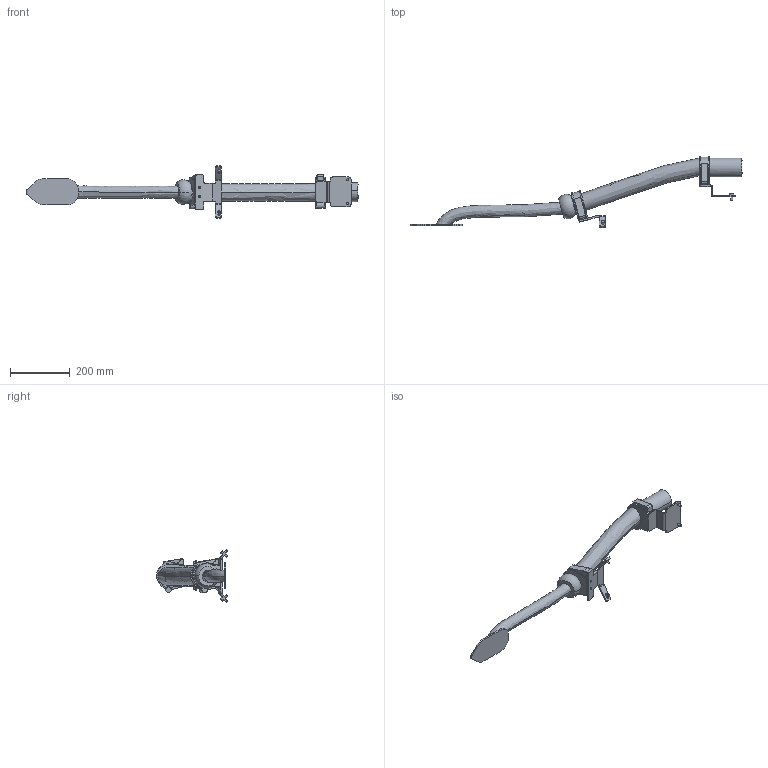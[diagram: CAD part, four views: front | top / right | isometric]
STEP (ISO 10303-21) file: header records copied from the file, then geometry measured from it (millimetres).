
FILE_DESCRIPTION (( 'STEP AP214' ), '1' );
FILE_NAME ('IRB6720-MH3_160kg-320_OC_00_LINK04_CABLE.step', '2026-06-10T11:41:55', ( '' ), ( '' ), 'SwSTEP 2.0', 'SolidWorks 2024', '' );
FILE_SCHEMA (( 'AUTOMOTIVE_DESIGN' ));
Length unit declared in the file: millimetre
Products named in the file (1): IRB6720-MH3_160kg-320_OC_00_LINK04_CABLE
Bounding box: 1110.31 x 238.88 x 174.65 mm (x, y, z)
Volume: 2828382.6 mm3; surface area: 292518.3 mm2
Topology: 1 solids, 1 shells, 281 faces, 747 edges, 481 vertices
Faces by surface type: plane 184, cylinder 85, bspline 6, cone 4, torus 2
Entity records: 10087 total; most frequent: CARTESIAN_POINT 2948, ORIENTED_EDGE 1494, DIRECTION 1490, EDGE_CURVE 747, LINE 516, VECTOR 516, AXIS2_PLACEMENT_3D 487, VERTEX_POINT 481
